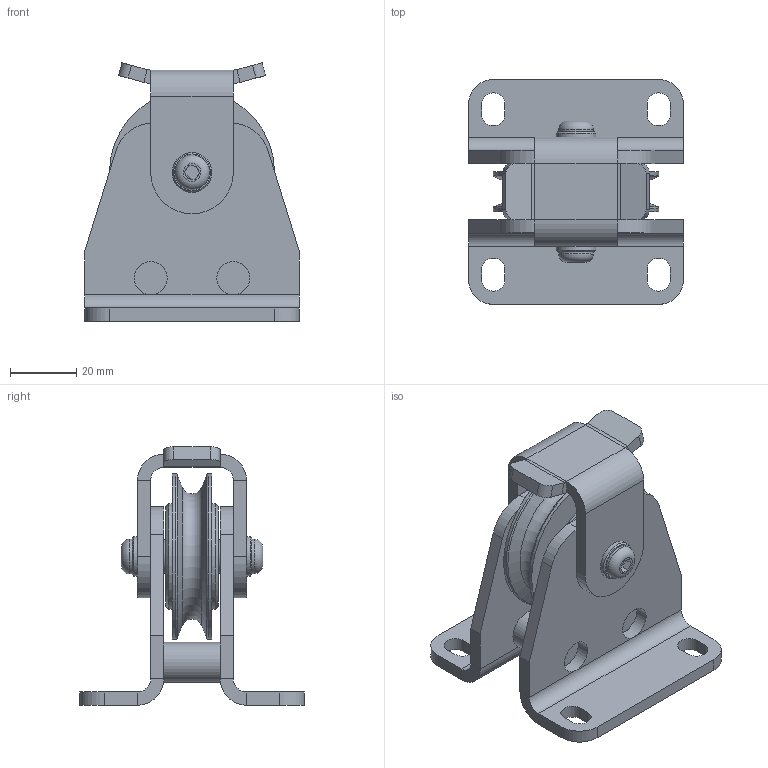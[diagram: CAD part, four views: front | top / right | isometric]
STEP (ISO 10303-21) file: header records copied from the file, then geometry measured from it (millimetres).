
FILE_DESCRIPTION(/* description */ ('Seilrollenbock Seilniederhalter ø50 Stahl Kugellager komplett'),/* implementation_level */ '2;1');
FILE_NAME(/* name */ 'Z:\Workspace\03 Seilrollen\1.406 K Seilrollenbock Seilniederhalter Kugellager\1.406.01 K Seilrollenbock Seilniederhalter ø50 Stahl Kugellager\1.406.01 K Seilrollenbock Seilniederhalter ø50 Stahl Kugellager komplett.stp',/* time_stamp */ '2021-10-06T07:59:29+02:00',/* author */ ('cad-user'),/* organization */ (''),/* preprocessor_version */ 'ST-DEVELOPER v18',/* originating_system */ 'Autodesk Inventor 2020',/* authorisation */ '');
FILE_SCHEMA (('AUTOMOTIVE_DESIGN { 1 0 10303 214 3 1 1 }'));
Length unit declared in the file: millimetre
Products named in the file (16): 1.406.01 K Seilrollenbock Seilniederhalter ø50 Stahl Kugellager k
omplett; 1.405.01.01 Seilrollenbock Schweißteil; 1.405.01.01 Blech; 1.405.01.01 Distanzachse; 1.402.01 Seilrolle ø50 Kugellager komplett; 1.402.01 Seilrolle ø50 Kugellager; DIN625 - 6000-2RS; din625_-_6000-2rs_0_05; din625_-_6000-2rs_0_04; din625_-_6000-2rs_0_03; din625_-_6000-2rs_0_02; din625_-_6000-2rs_0_01; 1.405.01.02 Achse; DIN 125-1 - B 6,4; 1.406.01.03 Seilniederhalter ø50; ISO 7380 - M6 x 16
Assembly tree (20 placements, depth 4):
  1.406.01 K Seilrollenbock Seilniederhalter ø50 Stahl Kugellager k
omplett
    1.405.01.01 Seilrollenbock Schweißteil
      1.405.01.01 Blech  x2
      1.405.01.01 Distanzachse  x2
    1.402.01 Seilrolle ø50 Kugellager komplett
      1.402.01 Seilrolle ø50 Kugellager
      DIN625 - 6000-2RS  x2
        din625_-_6000-2rs_0_05
        din625_-_6000-2rs_0_04
        din625_-_6000-2rs_0_03
        din625_-_6000-2rs_0_02
        din625_-_6000-2rs_0_01
    1.405.01.02 Achse
    DIN 125-1 - B 6,4  x2
    1.406.01.03 Seilniederhalter ø50
    ISO 7380 - M6 x 16  x2
Bounding box: 65 x 68 x 78.19 mm (x, y, z)
Volume: 69443.3 mm3; surface area: 47099.9 mm2
Topology: 21 solids, 21 shells, 264 faces, 688 edges, 466 vertices
Faces by surface type: plane 120, cylinder 87, torus 33, sphere 14, cone 10
Full cylindrical faces by diameter (mm): 4.917 x1, 6 x2, 6.4 x4, 6.5 x2, 10 x7, 10.5 x2, 11.8 x8, 12 x4, 14.8 x4, 21.2 x4, 23.1 x8, 26 x3, 32 x2, 50 x2
Entity records: 6119 total; most frequent: CARTESIAN_POINT 1374, DIRECTION 974, ORIENTED_EDGE 808, AXIS2_PLACEMENT_3D 405, EDGE_CURVE 404, VERTEX_POINT 280, EDGE_LOOP 210, CIRCLE 205
